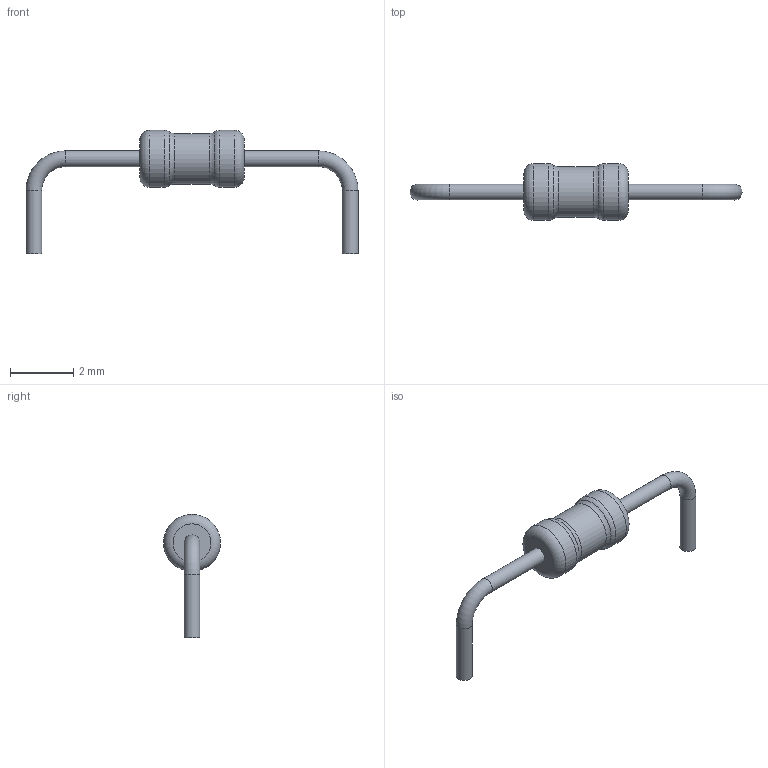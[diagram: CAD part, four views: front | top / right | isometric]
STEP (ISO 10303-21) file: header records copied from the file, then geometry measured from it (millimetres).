
FILE_DESCRIPTION(('STEP AP203'), '1');
FILE_NAME('R1-72-0.125(1)', '', ('UNSPECIFIED'), ('UNSPECIFIED'), 'ASCON STEP Converter 1.6', 'ASCON Math Kernel', '');
FILE_SCHEMA(('CONFIG_CONTROL_DESIGN'));
Length unit declared in the file: millimetre
Bounding box: 10.5 x 1.8 x 3.9 mm (x, y, z)
Volume: 9.8 mm3; surface area: 40.1 mm2
Topology: 1 solids, 1 shells, 19 faces, 33 edges, 18 vertices
Faces by surface type: torus 8, cylinder 7, plane 4
Full cylindrical faces by diameter (mm): 0.5 x4, 1.6 x1, 1.8 x2
Entity records: 570 total; most frequent: DIRECTION 76, CARTESIAN_POINT 56, AXIS2_PLACEMENT_3D 38, EDGE_LOOP 36, ORIENTED_EDGE 36, FACE_OUTER_BOUND 30, COLOUR_RGB 20, FILL_AREA_STYLE_COLOUR 20
